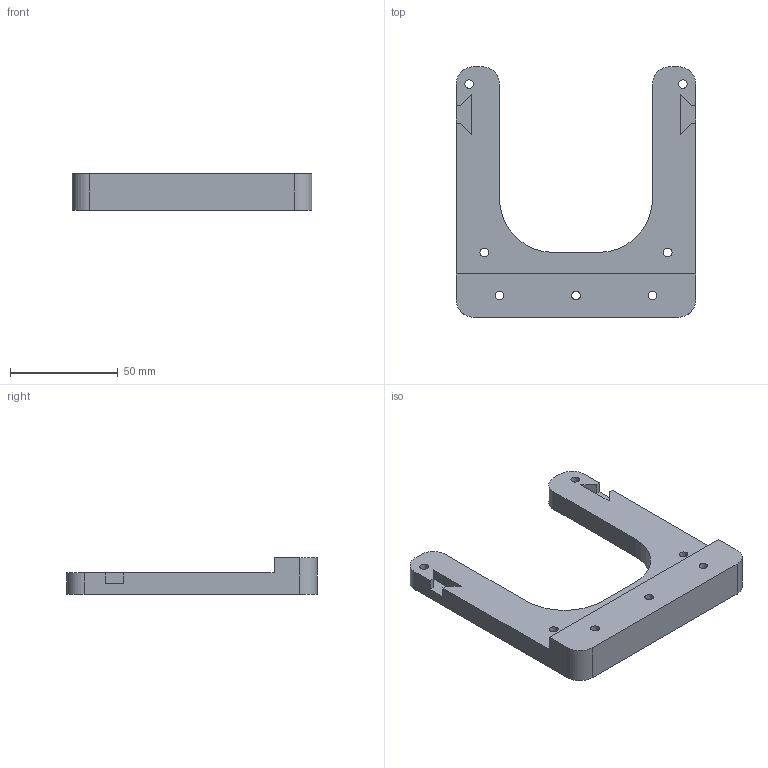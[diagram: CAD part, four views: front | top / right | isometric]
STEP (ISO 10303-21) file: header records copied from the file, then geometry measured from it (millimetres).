
FILE_DESCRIPTION(/* description */ ('STEP AP242 Edition 2','CAx-IF Rec.Pracs.---Representation and Presentation of Product Manufacturing Information (PMI)---4.0---2014-10-13','CAx-IF Rec.Pracs.---3D Tessellated Geometry---0.4---2014-09-14','2;1','CAx-IF Rec.Pracs.---User Defined Attributes---1.5---2016-08-15'),/* implementation_level */ '2;1');
FILE_NAME(/* name */ 'Part Studio 1 - lower_part',/* time_stamp */ '2026-04-19T16:25:01Z',/* author */ (''),/* organization */ (''),/* preprocessor_version */ 'ST-DEVELOPER v20',/* originating_system */ 'ONSHAPE BY PTC INC, 1.213',/* authorisation */ ' ');
FILE_SCHEMA (('AP242_MANAGED_MODEL_BASED_3D_ENGINEERING_MIM_LF { 1 0 10303 442 3 1 4 }'));
Length unit declared in the file: metre
Products named in the file (1): lower_part
Bounding box: 111 x 116 x 17 mm (x, y, z)
Volume: 81975.7 mm3; surface area: 23148.2 mm2
Topology: 1 solids, 1 shells, 88 faces, 237 edges, 158 vertices
Faces by surface type: plane 73, cylinder 15
Full cylindrical faces by diameter (mm): 4 x7
Entity records: 2746 total; most frequent: CARTESIAN_POINT 477, ORIENTED_EDGE 460, DIRECTION 438, EDGE_CURVE 230, LINE 200, VECTOR 200, VERTEX_POINT 158, AXIS2_PLACEMENT_3D 119
